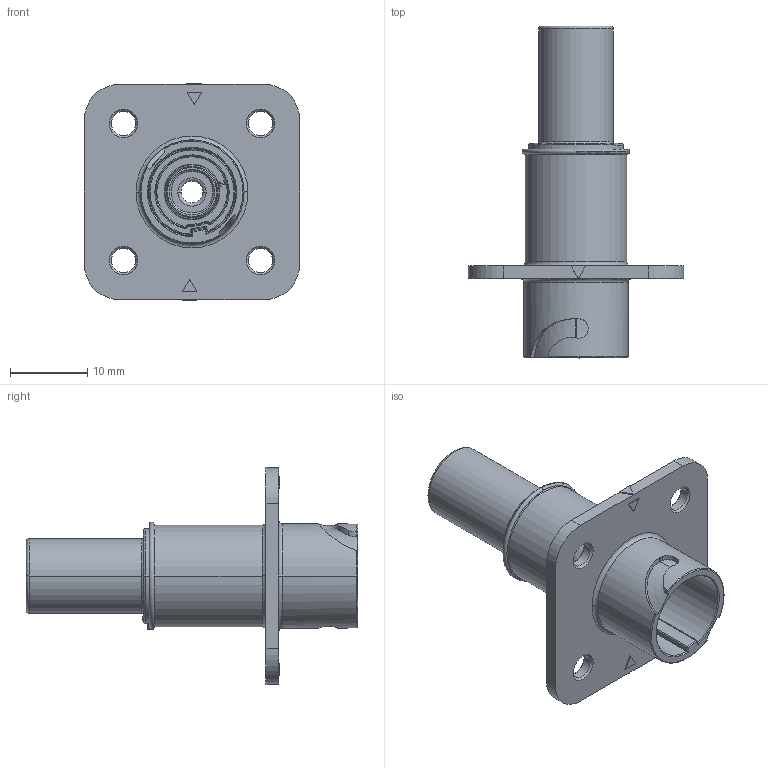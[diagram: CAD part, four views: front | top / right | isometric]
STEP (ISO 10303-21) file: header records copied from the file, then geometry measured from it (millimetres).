
FILE_DESCRIPTION((''),'2;1');
FILE_NAME('SJS801130_SW0001','2019-07-11T16:30:04',('MDigiacom'),(''),'CREO PARAMETRIC BY PTC INC, 2018400','CREO PARAMETRIC BY PTC INC, 2018400','');
FILE_SCHEMA(('CONFIG_CONTROL_DESIGN'));
Length unit declared in the file: inch
Products named in the file (1): SJS801130_SW0001
Bounding box: 27.94 x 43.07 x 28.19 mm (x, y, z)
Volume: 3792.2 mm3; surface area: 5653.1 mm2
Topology: 1 solids, 1 shells, 477 faces, 1201 edges, 749 vertices
Faces by surface type: plane 218, cylinder 96, torus 74, cone 52, bspline 29, sphere 6, extrusion 2
Entity records: 16557 total; most frequent: CARTESIAN_POINT 5142, ORIENTED_EDGE 2402, DIRECTION 2341, EDGE_CURVE 1201, AXIS2_PLACEMENT_3D 850, VERTEX_POINT 749, VECTOR 641, LINE 639
